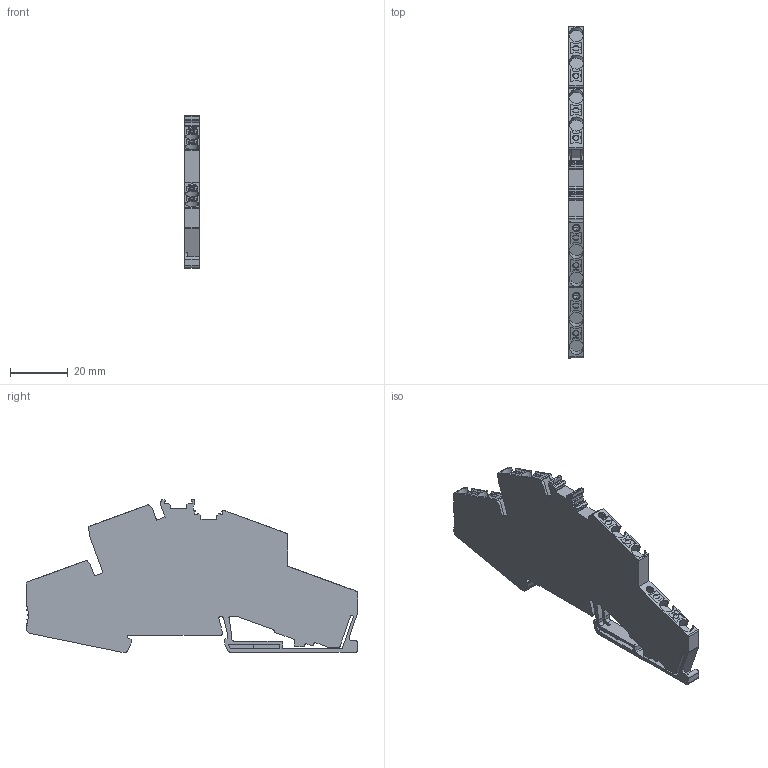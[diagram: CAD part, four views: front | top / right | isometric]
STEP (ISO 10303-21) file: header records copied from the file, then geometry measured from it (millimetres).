
FILE_DESCRIPTION (( 'STEP AP214' ), '1' );
FILE_NAME ('VPRTT-2.5S-QT-PV.STEP', '2026-03-30T14:28:35', ( '' ), ( '' ), 'SwSTEP 2.0', 'SolidWorks 2022', '' );
FILE_SCHEMA (( 'AUTOMOTIVE_DESIGN' ));
Length unit declared in the file: millimetre
Products named in the file (1): VPRTT-2.5S-QT-PV
Bounding box: 5.15 x 115.29 x 53 mm (x, y, z)
Volume: 19564.6 mm3; surface area: 11952.8 mm2
Topology: 1 solids, 1 shells, 634 faces, 1829 edges, 1215 vertices
Faces by surface type: plane 458, cylinder 170, cone 6
Entity records: 22766 total; most frequent: CARTESIAN_POINT 3700, ORIENTED_EDGE 3658, DIRECTION 3440, EDGE_CURVE 1829, LINE 1474, VECTOR 1474, VERTEX_POINT 1215, AXIS2_PLACEMENT_3D 983
